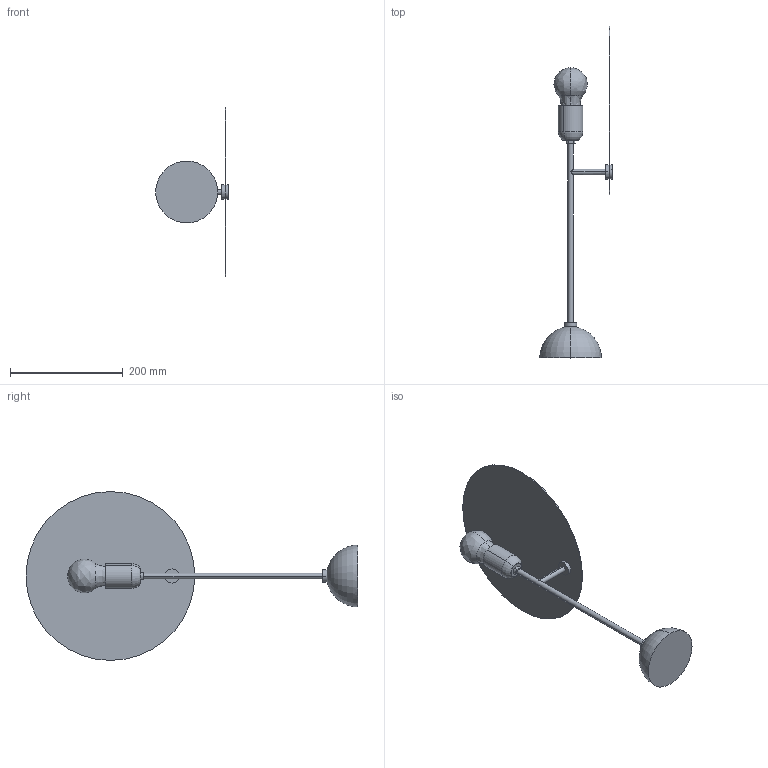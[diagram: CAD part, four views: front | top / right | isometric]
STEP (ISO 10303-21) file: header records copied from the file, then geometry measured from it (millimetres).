
FILE_DESCRIPTION (( 'STEP AP214' ), '1' );
FILE_NAME ('3D_KUTA_TABLE.STEP', '2018-03-01T10:33:11', ( 'Utente' ), ( '' ), 'SwSTEP 2.0', 'SolidWorks 2016', '' );
FILE_SCHEMA (( 'AUTOMOTIVE_DESIGN' ));
Length unit declared in the file: millimetre
Products named in the file (5): 3D_KUTA_TABLE; 010KUT000300_Base MarmoMARTI-1^3D_KUTA_TABLE; 010KUT700100-Riflettore discoMARTI-1^3D_KUTA_TABLE; _U3-1^3D_KUTA_TABLE; Group2^3D_KUTA_TABLE
Assembly tree (4 placements, depth 2):
  3D_KUTA_TABLE
    Group2^3D_KUTA_TABLE
    _U3-1^3D_KUTA_TABLE
    010KUT700100-Riflettore discoMARTI-1^3D_KUTA_TABLE
    010KUT000300_Base MarmoMARTI-1^3D_KUTA_TABLE
Bounding box: 129 x 590 x 300 mm (x, y, z)
Volume: 694917.1 mm3; surface area: 213685 mm2
Topology: 5 solids, 5 shells, 69 faces, 151 edges, 96 vertices
Faces by surface type: cylinder 31, plane 20, torus 6, bspline 6, cone 6
Entity records: 5026 total; most frequent: CARTESIAN_POINT 3170, DIRECTION 332, ORIENTED_EDGE 298, EDGE_CURVE 149, AXIS2_PLACEMENT_3D 144, VERTEX_POINT 96, EDGE_LOOP 79, CIRCLE 74
